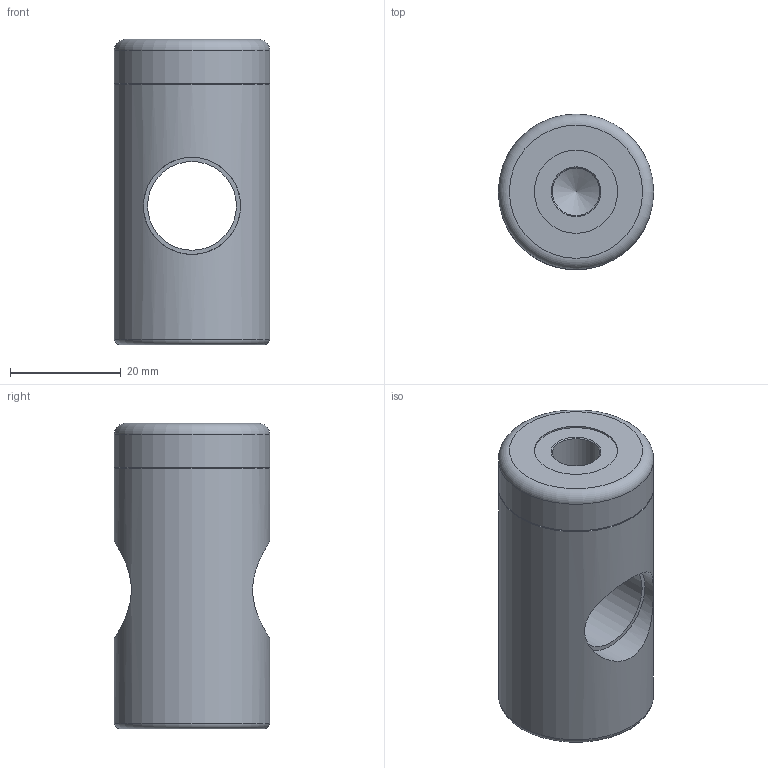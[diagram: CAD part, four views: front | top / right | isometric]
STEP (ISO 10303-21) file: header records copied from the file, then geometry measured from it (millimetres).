
FILE_DESCRIPTION(('STEP AP242'),'1');
FILE_NAME('V.5016 Feststellpatrone.stp','2026-04-23T09:33:28',(' '),(' '),'Spatial InterOp 3D',' ',' ');
FILE_SCHEMA(('AP242_MANAGED_MODEL_BASED_3D_ENGINEERING_MIM_LF {1 0 10303 442 1 1 4}'));
Length unit declared in the file: millimetre
Products named in the file (1): V.5016 Feststellpatrone
Bounding box: 28 x 28 x 55 mm (x, y, z)
Volume: 27334 mm3; surface area: 7146.5 mm2
Topology: 1 solids, 1 shells, 19 faces, 36 edges, 22 vertices
Faces by surface type: cylinder 8, plane 5, cone 4, torus 2
Full cylindrical faces by diameter (mm): 8.566 x2, 15 x1, 16 x1, 17.5 x2, 28 x2
Entity records: 819 total; most frequent: CARTESIAN_POINT 249, DIRECTION 74, EDGE_LOOP 38, ORIENTED_EDGE 38, AXIS2_PLACEMENT_3D 37, FACE_OUTER_BOUND 29, STYLED_ITEM 20, PRESENTATION_STYLE_ASSIGNMENT 20
